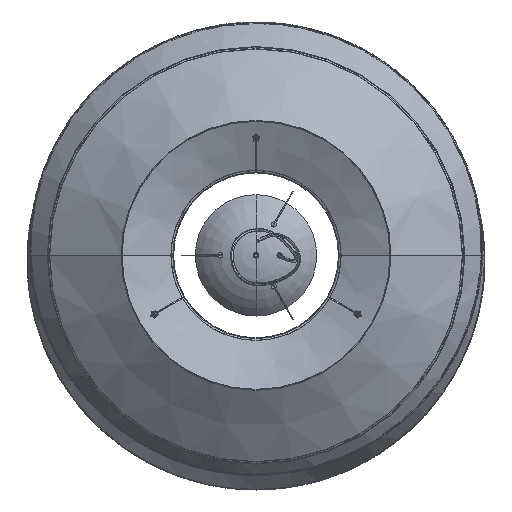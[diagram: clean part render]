
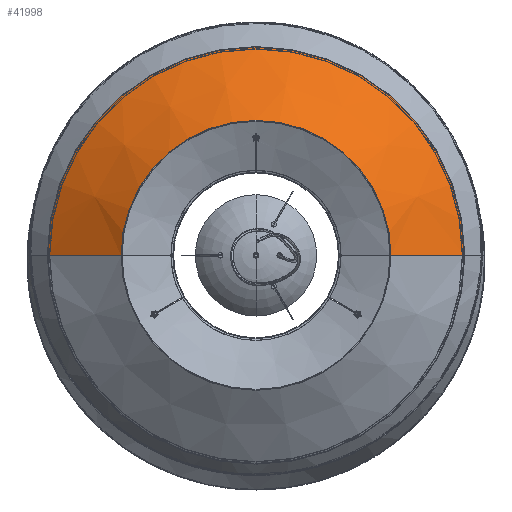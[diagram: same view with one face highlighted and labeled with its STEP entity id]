
A CAD part, front view. The second image highlights one B-rep face of the part: STEP entity #41998.
In plain terms, the highlighted conical face has half-angle 55 degrees and reference radius 177.5 mm.
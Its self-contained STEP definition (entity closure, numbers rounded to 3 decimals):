
#420 = CONICAL_SURFACE ( 'NONE', #61684, 177.5, 0.96 ) ;
#2086 = VERTEX_POINT ( 'NONE', #4541 ) ;
#2510 = FACE_OUTER_BOUND ( 'NONE', #52096, .T. ) ;
#2962 = EDGE_CURVE ( 'NONE', #55486, #33565, #11055, .T. ) ;
#4327 = CARTESIAN_POINT ( 'NONE',  ( 0., -306.819, 0. ) ) ;
#4541 = CARTESIAN_POINT ( 'NONE',  ( -177.973, -374.669, 0. ) ) ;
#4767 = LINE ( 'NONE', #47501, #53346 ) ;
#7330 = DIRECTION ( 'NONE',  ( 0., 1., 0. ) ) ;
#8712 = EDGE_CURVE ( 'NONE', #2086, #34159, #4767, .T. ) ;
#11055 = LINE ( 'NONE', #15819, #50329 ) ;
#13189 = EDGE_CURVE ( 'NONE', #2086, #55486, #45626, .T. ) ;
#15819 = CARTESIAN_POINT ( 'NONE',  ( 177.5, -375., 0. ) ) ;
#17558 = DIRECTION ( 'NONE',  ( 1., 0., 0. ) ) ;
#21058 = DIRECTION ( 'NONE',  ( 0., -1., 0. ) ) ;
#23365 = CARTESIAN_POINT ( 'NONE',  ( 0., -375., 0. ) ) ;
#24492 = DIRECTION ( 'NONE',  ( 1., 0., 0. ) ) ;
#31442 = CARTESIAN_POINT ( 'NONE',  ( 274.872, -306.819, 0. ) ) ;
#31455 = AXIS2_PLACEMENT_3D ( 'NONE', #54991, #44684, #24492 ) ;
#31631 = ORIENTED_EDGE ( 'NONE', *, *, #8712, .F. ) ;
#32297 = AXIS2_PLACEMENT_3D ( 'NONE', #4327, #21058, #67665 ) ;
#33565 = VERTEX_POINT ( 'NONE', #31442 ) ;
#33890 = ORIENTED_EDGE ( 'NONE', *, *, #65078, .T. ) ;
#34159 = VERTEX_POINT ( 'NONE', #56528 ) ;
#41701 = DIRECTION ( 'NONE',  ( -0.819, 0.574, 0. ) ) ;
#41998 = ADVANCED_FACE ( 'NONE', ( #2510 ), #420, .T. ) ;
#43620 = ORIENTED_EDGE ( 'NONE', *, *, #2962, .T. ) ;
#44684 = DIRECTION ( 'NONE',  ( 0., 1., 0. ) ) ;
#45626 = CIRCLE ( 'NONE', #31455, 177.973 ) ;
#46468 = CIRCLE ( 'NONE', #32297, 274.872 ) ;
#46620 = DIRECTION ( 'NONE',  ( 0.819, 0.574, 0. ) ) ;
#47501 = CARTESIAN_POINT ( 'NONE',  ( -177.5, -375., 0. ) ) ;
#48671 = ORIENTED_EDGE ( 'NONE', *, *, #13189, .T. ) ;
#50329 = VECTOR ( 'NONE', #46620, 1000. ) ;
#52096 = EDGE_LOOP ( 'NONE', ( #31631, #48671, #43620, #33890 ) ) ;
#53346 = VECTOR ( 'NONE', #41701, 1000. ) ;
#54991 = CARTESIAN_POINT ( 'NONE',  ( 0., -374.669, 0. ) ) ;
#55486 = VERTEX_POINT ( 'NONE', #57503 ) ;
#56528 = CARTESIAN_POINT ( 'NONE',  ( -274.872, -306.819, 0. ) ) ;
#57503 = CARTESIAN_POINT ( 'NONE',  ( 177.973, -374.669, 0. ) ) ;
#61684 = AXIS2_PLACEMENT_3D ( 'NONE', #23365, #7330, #17558 ) ;
#65078 = EDGE_CURVE ( 'NONE', #33565, #34159, #46468, .T. ) ;
#67665 = DIRECTION ( 'NONE',  ( 1., 0., 0. ) ) ;
